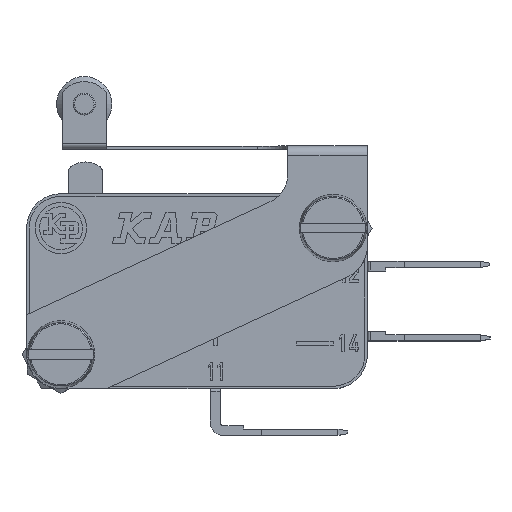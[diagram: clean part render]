
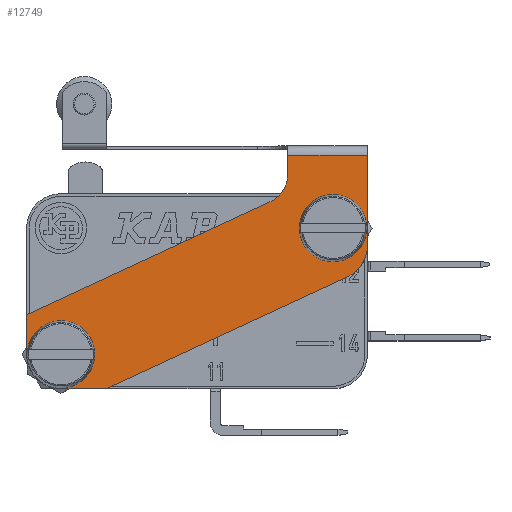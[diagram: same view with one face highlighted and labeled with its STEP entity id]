
A CAD part, top view. The second image highlights one B-rep face of the part: STEP entity #12749.
In plain terms, the highlighted planar face has unit normal (0, 0, 1).
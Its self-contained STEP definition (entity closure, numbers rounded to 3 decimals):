
#12432=CARTESIAN_POINT('',(-11.1,-7.95,5.4));
#12433=VERTEX_POINT('',#12432);
#12434=CARTESIAN_POINT('',(-13.9,-5.15,5.4));
#12435=VERTEX_POINT('',#12434);
#12436=CARTESIAN_POINT('',(-11.1,-5.15,5.4));
#12437=DIRECTION('',(0.0,0.0,-1.0));
#12438=DIRECTION('',(-1.0,0.0,0.0));
#12439=AXIS2_PLACEMENT_3D('',#12436,#12437,#12438);
#12440=CIRCLE('',#12439,2.8);
#12441=EDGE_CURVE('',#12433,#12435,#12440,.T.);
#12474=CARTESIAN_POINT('',(-7.393,-7.95,5.4));
#12475=VERTEX_POINT('',#12474);
#12476=CARTESIAN_POINT('',(-7.393,-7.95,5.4));
#12477=DIRECTION('',(-1.0,0.0,0.0));
#12478=VECTOR('',#12477,3.707);
#12479=LINE('',#12476,#12478);
#12480=EDGE_CURVE('',#12475,#12433,#12479,.T.);
#12505=CARTESIAN_POINT('',(12.278,1.177,5.4));
#12506=VERTEX_POINT('',#12505);
#12507=CARTESIAN_POINT('',(12.278,1.177,5.4));
#12508=DIRECTION('',(-0.907,-0.421,0.));
#12509=VECTOR('',#12508,21.686);
#12510=LINE('',#12507,#12509);
#12511=EDGE_CURVE('',#12506,#12475,#12510,.T.);
#12536=CARTESIAN_POINT('',(13.9,3.717,5.4));
#12537=VERTEX_POINT('',#12536);
#12538=CARTESIAN_POINT('',(11.1,3.717,5.4));
#12539=DIRECTION('',(0.,0.,-1.));
#12540=DIRECTION('',(0.421,-0.907,0.));
#12541=AXIS2_PLACEMENT_3D('',#12538,#12539,#12540);
#12542=CIRCLE('',#12541,2.8);
#12543=EDGE_CURVE('',#12537,#12506,#12542,.T.);
#12577=CARTESIAN_POINT('',(5.952,7.281,5.4));
#12578=VERTEX_POINT('',#12577);
#12579=CARTESIAN_POINT('',(7.4,9.549,5.4));
#12580=VERTEX_POINT('',#12579);
#12581=CARTESIAN_POINT('',(4.9,9.549,5.4));
#12582=DIRECTION('',(0.,0.,1.0));
#12583=DIRECTION('',(-0.421,0.907,0.));
#12584=AXIS2_PLACEMENT_3D('',#12581,#12582,#12583);
#12585=CIRCLE('',#12584,2.5);
#12586=EDGE_CURVE('',#12578,#12580,#12585,.T.);
#12619=CARTESIAN_POINT('',(-13.9,-1.929,5.4));
#12620=VERTEX_POINT('',#12619);
#12621=CARTESIAN_POINT('',(-13.9,-1.929,5.4));
#12622=DIRECTION('',(0.907,0.421,0.));
#12623=VECTOR('',#12622,21.885);
#12624=LINE('',#12621,#12623);
#12625=EDGE_CURVE('',#12620,#12578,#12624,.T.);
#12650=CARTESIAN_POINT('',(-13.9,-5.15,5.4));
#12651=DIRECTION('',(0.0,1.0,0.0));
#12652=VECTOR('',#12651,3.221);
#12653=LINE('',#12650,#12652);
#12654=EDGE_CURVE('',#12435,#12620,#12653,.T.);
#12672=CARTESIAN_POINT('',(7.4,11.1,5.4));
#12673=VERTEX_POINT('',#12672);
#12689=CARTESIAN_POINT('',(7.4,9.549,5.4));
#12690=DIRECTION('',(0.0,1.0,0.0));
#12691=VECTOR('',#12690,1.551);
#12692=LINE('',#12689,#12691);
#12693=EDGE_CURVE('',#12580,#12673,#12692,.T.);
#12698=CARTESIAN_POINT('',(-0.677,8.702,5.4));
#12699=DIRECTION('',(0.0,0.0,1.0));
#12700=DIRECTION('',(1.0,0.0,0.0));
#12701=AXIS2_PLACEMENT_3D('',#12698,#12699,#12700);
#12702=PLANE('',#12701);
#12703=CARTESIAN_POINT('',(13.9,11.1,5.4));
#12704=VERTEX_POINT('',#12703);
#12705=CARTESIAN_POINT('',(13.9,11.1,5.4));
#12706=DIRECTION('',(-1.0,0.0,0.0));
#12707=VECTOR('',#12706,6.5);
#12708=LINE('',#12705,#12707);
#12709=EDGE_CURVE('',#12704,#12673,#12708,.T.);
#12710=ORIENTED_EDGE('',*,*,#12709,.T.);
#12711=ORIENTED_EDGE('',*,*,#12693,.F.);
#12712=ORIENTED_EDGE('',*,*,#12586,.F.);
#12713=ORIENTED_EDGE('',*,*,#12625,.F.);
#12714=ORIENTED_EDGE('',*,*,#12654,.F.);
#12715=ORIENTED_EDGE('',*,*,#12441,.F.);
#12716=ORIENTED_EDGE('',*,*,#12480,.F.);
#12717=ORIENTED_EDGE('',*,*,#12511,.F.);
#12718=ORIENTED_EDGE('',*,*,#12543,.F.);
#12719=CARTESIAN_POINT('',(13.9,11.1,5.4));
#12720=DIRECTION('',(0.0,-1.0,0.0));
#12721=VECTOR('',#12720,7.383);
#12722=LINE('',#12719,#12721);
#12723=EDGE_CURVE('',#12704,#12537,#12722,.T.);
#12724=ORIENTED_EDGE('',*,*,#12723,.F.);
#12725=EDGE_LOOP('',(#12710,#12711,#12712,#12713,#12714,#12715,#12716,#12717,#12718,#12724));
#12726=FACE_OUTER_BOUND('',#12725,.T.);
#12727=CARTESIAN_POINT('',(-11.1,-2.4,5.4));
#12728=VERTEX_POINT('',#12727);
#12729=CARTESIAN_POINT('',(-11.1,-5.15,5.4));
#12730=DIRECTION('',(0.0,0.0,-1.0));
#12731=DIRECTION('',(0.0,1.0,0.0));
#12732=AXIS2_PLACEMENT_3D('',#12729,#12730,#12731);
#12733=CIRCLE('',#12732,2.75);
#12734=EDGE_CURVE('',#12728,#12728,#12733,.T.);
#12735=ORIENTED_EDGE('',*,*,#12734,.T.);
#12736=EDGE_LOOP('',(#12735));
#12737=FACE_BOUND('',#12736,.T.);
#12738=CARTESIAN_POINT('',(11.1,7.9,5.4));
#12739=VERTEX_POINT('',#12738);
#12740=CARTESIAN_POINT('',(11.1,5.15,5.4));
#12741=DIRECTION('',(0.0,0.0,-1.0));
#12742=DIRECTION('',(0.0,1.0,0.0));
#12743=AXIS2_PLACEMENT_3D('',#12740,#12741,#12742);
#12744=CIRCLE('',#12743,2.75);
#12745=EDGE_CURVE('',#12739,#12739,#12744,.T.);
#12746=ORIENTED_EDGE('',*,*,#12745,.T.);
#12747=EDGE_LOOP('',(#12746));
#12748=FACE_BOUND('',#12747,.T.);
#12749=ADVANCED_FACE('',(#12726,#12737,#12748),#12702,.T.);
